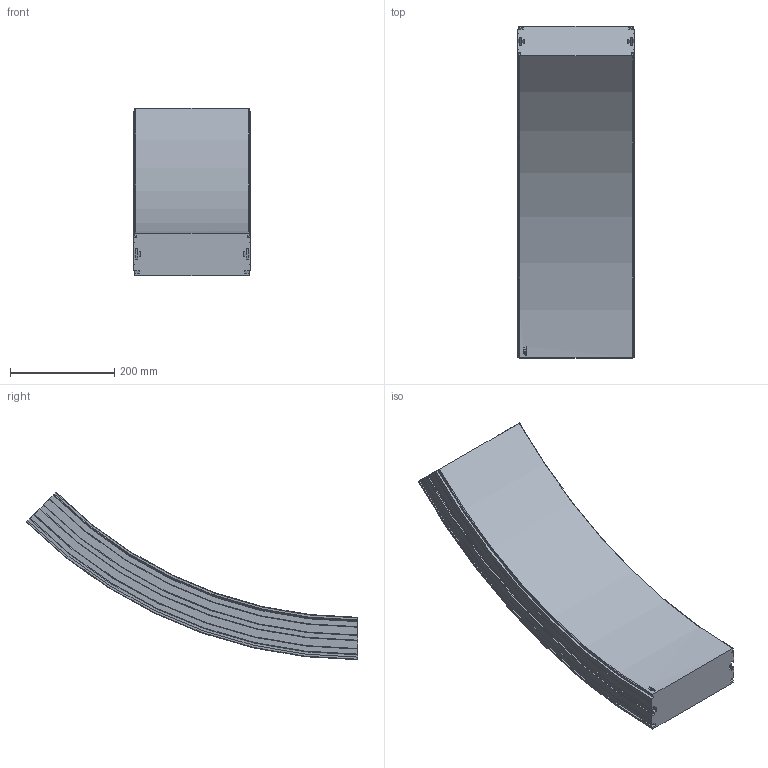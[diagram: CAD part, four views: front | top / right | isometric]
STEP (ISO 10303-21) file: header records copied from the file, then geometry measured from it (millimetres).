
FILE_DESCRIPTION(/* description */ ('VERTIKALKURVA S220 R860'),/* implementation_level */ '2;1');
FILE_NAME(/* name */ '\\carryline.intra\privat\users\mathias\Desktop\Tillfälliga filer\220-5695+220-2000-UPP-01.stp',/* time_stamp */ '2018-11-29T14:57:49+01:00',/* author */ ('MD'),/* organization */ ('CARRYLINE'),/* preprocessor_version */ 'ST-DEVELOPER v17',/* originating_system */ 'Autodesk Inventor 2018',/* authorisation */ '');
FILE_SCHEMA (('AUTOMOTIVE_DESIGN { 1 0 10303 214 3 1 1 }'));
Length unit declared in the file: millimetre
Products named in the file (1): 220-5695+220-2000-UPP-01
Bounding box: 224 x 637.81 x 321.82 mm (x, y, z)
Volume: 11967879.3 mm3; surface area: 545205.1 mm2
Topology: 1 solids, 1 shells, 113 faces, 318 edges, 212 vertices
Faces by surface type: plane 48, cylinder 31, bspline 14, cone 14, torus 6
Entity records: 8349 total; most frequent: CARTESIAN_POINT 5381, ORIENTED_EDGE 636, DIRECTION 576, EDGE_CURVE 318, VERTEX_POINT 212, AXIS2_PLACEMENT_3D 199, LINE 178, VECTOR 178
